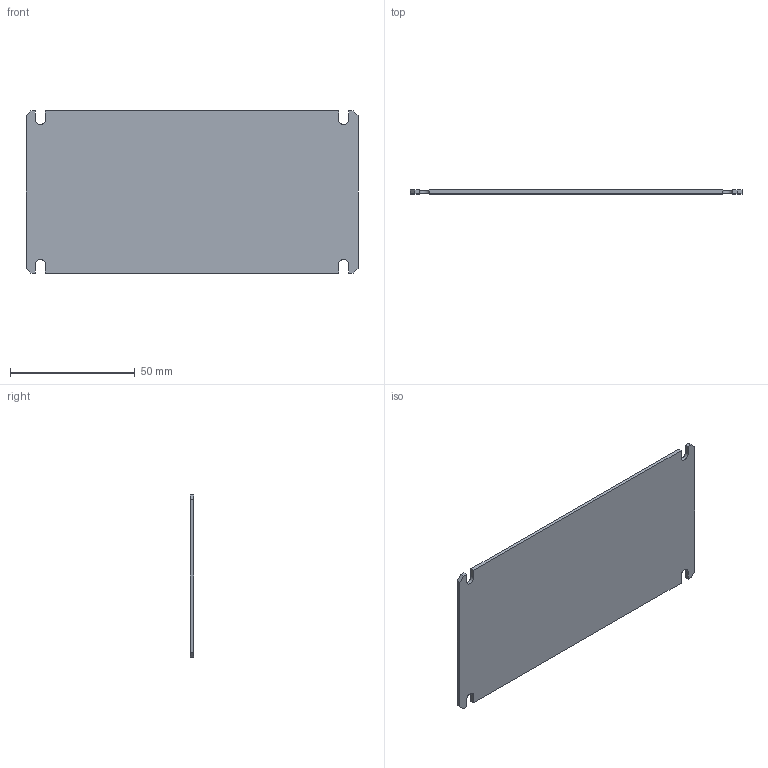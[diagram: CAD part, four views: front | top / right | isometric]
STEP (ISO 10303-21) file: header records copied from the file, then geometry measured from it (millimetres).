
FILE_DESCRIPTION (( 'STEP AP203' ), '1' );
FILE_NAME ('q168pd.STEP', '2011-10-07T15:56:53', ( 'Hoffman User' ), ( 'Hoffman Enclosures' ), 'SwSTEP 2.0', 'SolidWorks 2010', '' );
FILE_SCHEMA (( 'CONFIG_CONTROL_DESIGN' ));
Length unit declared in the file: millimetre
Products named in the file (1): q168pd
Bounding box: 133 x 1.5 x 65 mm (x, y, z)
Volume: 12833.8 mm3; surface area: 17754.4 mm2
Topology: 1 solids, 1 shells, 28 faces, 78 edges, 52 vertices
Faces by surface type: plane 22, cylinder 6
Entity records: 971 total; most frequent: CARTESIAN_POINT 159, ORIENTED_EDGE 156, DIRECTION 148, EDGE_CURVE 78, LINE 66, VECTOR 66, VERTEX_POINT 52, AXIS2_PLACEMENT_3D 41
